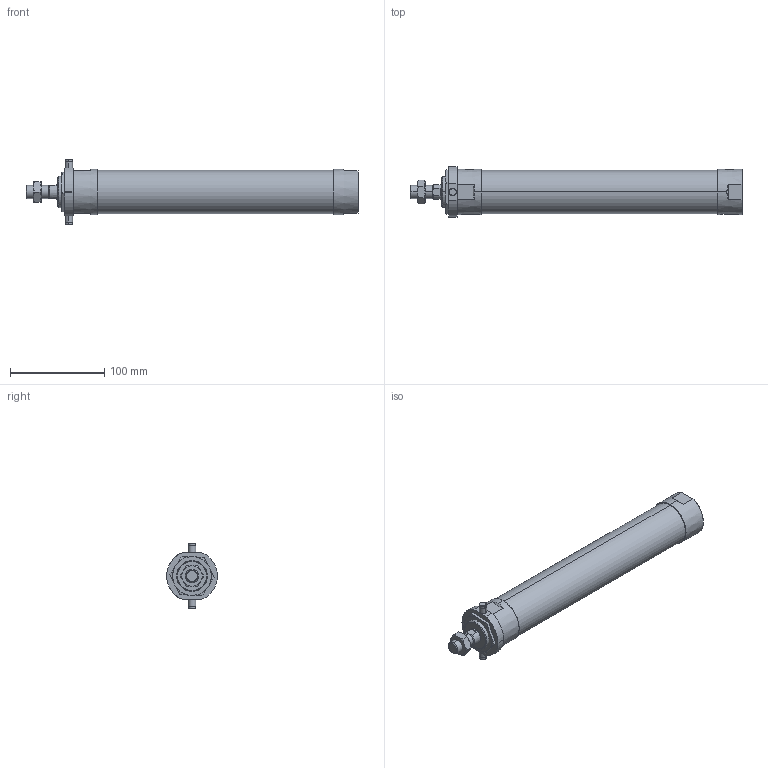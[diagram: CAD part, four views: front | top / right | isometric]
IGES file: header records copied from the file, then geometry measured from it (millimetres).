
Start section: SolidWorks IGES file using analytic representation for surfaces
Global section: file name: C:\Users\Toshiba\Desktop\JGND2-40-200-T.IGS; native system: SolidWorks 2014; preprocessor: SolidWorks 2014; author: Toshiba; date: 160804.111437; units: millimetre
Bounding box: 353 x 54 x 70 mm (x, y, z)
Surface area: 61577.3 mm2 (no closed solid volume)
Topology: 0 solids, 0 shells, 116 faces, 2138 edges, 2134 vertices
Faces by surface type: bspline 62, revolution 54
